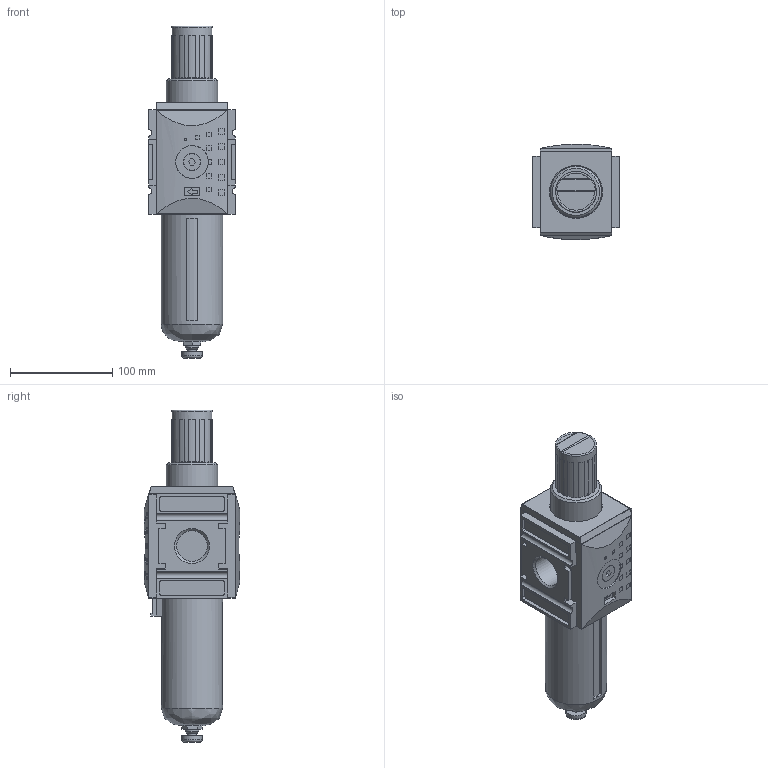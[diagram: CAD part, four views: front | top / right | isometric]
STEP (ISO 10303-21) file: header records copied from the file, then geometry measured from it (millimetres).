
FILE_DESCRIPTION((''),'2;1');
FILE_NAME('K:\ZEICHNG\Kunden Modelle\Airtec Schweden\BG4\KFRG-41.stp','2010-02-09T09:27:30',('DDruske'),(''),'Autodesk Inventor 2009','Autodesk Inventor 2009','');
FILE_SCHEMA(('AUTOMOTIVE_DESIGN { 1 0 10303 214 1 1 1 1 }'));
Length unit declared in the file: millimetre
Products named in the file (1): Bauteil9
Bounding box: 85 x 93.28 x 324.9 mm (x, y, z)
Volume: 1159106.1 mm3; surface area: 108262.3 mm2
Topology: 1 solids, 1 shells, 476 faces, 1225 edges, 790 vertices
Faces by surface type: plane 266, cylinder 127, bspline 59, torus 11, sphere 8, cone 5
Full cylindrical faces by diameter (mm): 8 x1, 13 x1, 16.5 x2, 20 x1, 27 x1, 30.291 x1, 32 x2, 35 x1, 40 x1, 50 x1, 60 x1
Entity records: 15187 total; most frequent: CARTESIAN_POINT 3141, ORIENTED_EDGE 2368, DIRECTION 2360, EDGE_CURVE 1184, VECTOR 796, LINE 796, VERTEX_POINT 784, AXIS2_PLACEMENT_3D 782
